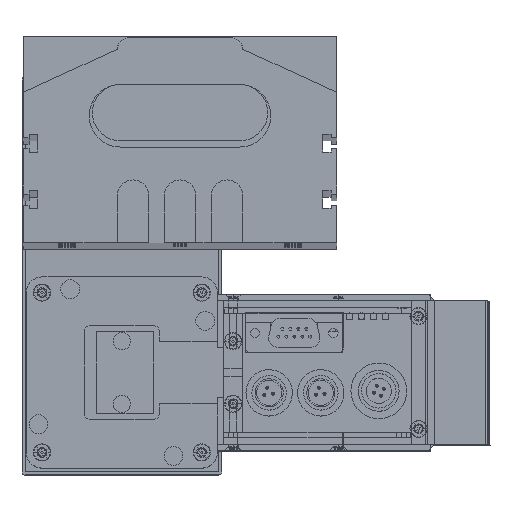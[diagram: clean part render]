
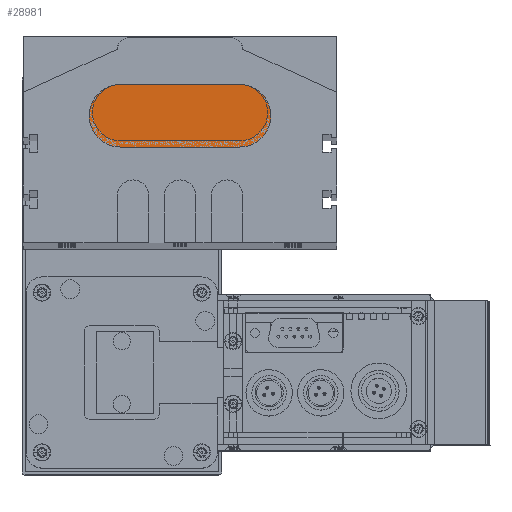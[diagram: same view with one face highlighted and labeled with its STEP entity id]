
A CAD part, top view. The second image highlights one B-rep face of the part: STEP entity #28981.
In plain terms, the highlighted planar face has unit normal (0, 0, 1).
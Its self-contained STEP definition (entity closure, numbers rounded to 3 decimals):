
#8276 = DIRECTION ( 'NONE',  ( 1., 0., 0. ) ) ;
#8280 = CARTESIAN_POINT ( 'NONE',  ( 0., 10., 10. ) ) ;
#8281 = AXIS2_PLACEMENT_3D ( 'NONE', #8280, #8293, #8276 ) ;
#8293 = DIRECTION ( 'NONE',  ( 0., 0., 1. ) ) ;
#8305 = CIRCLE ( 'NONE', #8281, 10. ) ;
#8567 = CARTESIAN_POINT ( 'NONE',  ( -10., 10., 10. ) ) ;
#8945 = DIRECTION ( 'NONE',  ( 1., 0., 0. ) ) ;
#8946 = VECTOR ( 'NONE', #8945, 1000. ) ;
#8958 = CARTESIAN_POINT ( 'NONE',  ( 0., 0., 10. ) ) ;
#8959 = LINE ( 'NONE', #8958, #8946 ) ;
#9097 = CARTESIAN_POINT ( 'NONE',  ( 0., 0., 10. ) ) ;
#9135 = CARTESIAN_POINT ( 'NONE',  ( 0., 20., 10. ) ) ;
#9145 = FACE_OUTER_BOUND ( 'NONE', #29017, .T. ) ;
#9148 = DIRECTION ( 'NONE',  ( -1., 0., 0. ) ) ;
#9149 = DIRECTION ( 'NONE',  ( 0., 0., 1. ) ) ;
#9150 = AXIS2_PLACEMENT_3D ( 'NONE', #9170, #9149, #9148 ) ;
#9158 = CIRCLE ( 'NONE', #9150, 10. ) ;
#9161 = CARTESIAN_POINT ( 'NONE',  ( 38., 0., 10. ) ) ;
#9170 = CARTESIAN_POINT ( 'NONE',  ( 38., 10., 10. ) ) ;
#9191 = DIRECTION ( 'NONE',  ( 1., 0., 0. ) ) ;
#9198 = CARTESIAN_POINT ( 'NONE',  ( 0., 10., 10. ) ) ;
#9201 = AXIS2_PLACEMENT_3D ( 'NONE', #9198, #9202, #9191 ) ;
#9202 = DIRECTION ( 'NONE',  ( 0., 0., 1. ) ) ;
#9205 = CARTESIAN_POINT ( 'NONE',  ( 38., 20., 10. ) ) ;
#9206 = PLANE ( 'NONE',  #9201 ) ;
#9212 = DIRECTION ( 'NONE',  ( -1., 0., 0. ) ) ;
#9220 = VECTOR ( 'NONE', #9212, 1000. ) ;
#9221 = CARTESIAN_POINT ( 'NONE',  ( 0., 20., 10. ) ) ;
#9222 = LINE ( 'NONE', #9221, #9220 ) ;
#10019 = CARTESIAN_POINT ( 'NONE',  ( 0., 10., 10. ) ) ;
#10055 = DIRECTION ( 'NONE',  ( 0., 0., 1. ) ) ;
#10056 = CIRCLE ( 'NONE', #10074, 10. ) ;
#10074 = AXIS2_PLACEMENT_3D ( 'NONE', #10019, #10055, #10112 ) ;
#10112 = DIRECTION ( 'NONE',  ( 1., 0., 0. ) ) ;
#28821 = EDGE_CURVE ( 'NONE', #28913, #28966, #8959, .T. ) ;
#28913 = VERTEX_POINT ( 'NONE', #9097 ) ;
#28922 = VERTEX_POINT ( 'NONE', #8567 ) ;
#28927 = EDGE_CURVE ( 'NONE', #28922, #28913, #8305, .T. ) ;
#28942 = VERTEX_POINT ( 'NONE', #9135 ) ;
#28966 = VERTEX_POINT ( 'NONE', #9161 ) ;
#28968 = EDGE_CURVE ( 'NONE', #28966, #28990, #9158, .T. ) ;
#28976 = ORIENTED_EDGE ( 'NONE', *, *, #28968, .T. ) ;
#28981 = ADVANCED_FACE ( 'NONE', ( #9145 ), #9206, .T. ) ;
#28988 = ORIENTED_EDGE ( 'NONE', *, *, #28821, .T. ) ;
#28990 = VERTEX_POINT ( 'NONE', #9205 ) ;
#29005 = ORIENTED_EDGE ( 'NONE', *, *, #29582, .T. ) ;
#29012 = EDGE_CURVE ( 'NONE', #28990, #28942, #9222, .T. ) ;
#29017 = EDGE_LOOP ( 'NONE', ( #29005, #29018, #28988, #28976, #29027 ) ) ;
#29018 = ORIENTED_EDGE ( 'NONE', *, *, #28927, .T. ) ;
#29027 = ORIENTED_EDGE ( 'NONE', *, *, #29012, .T. ) ;
#29582 = EDGE_CURVE ( 'NONE', #28942, #28922, #10056, .T. ) ;
